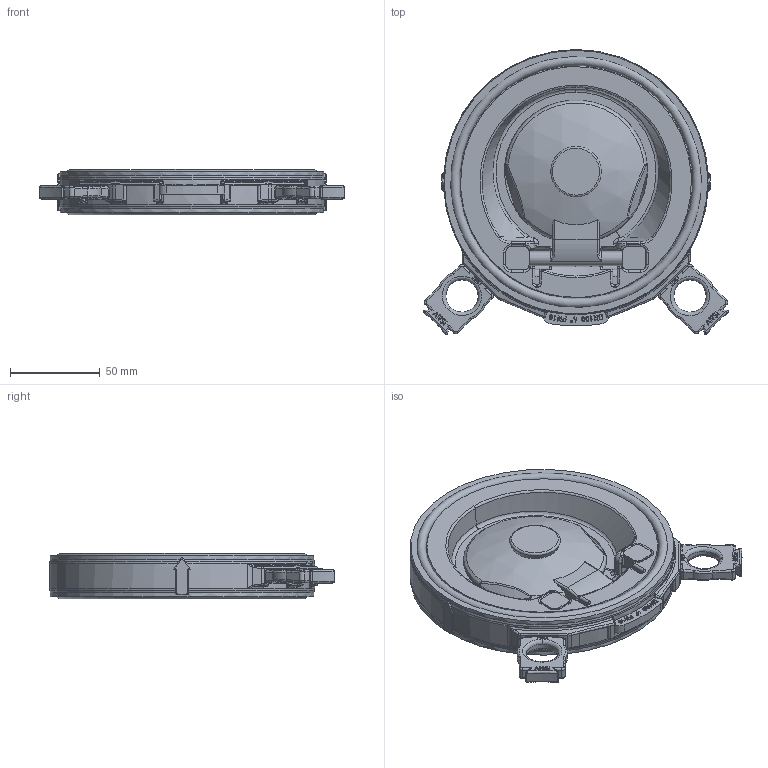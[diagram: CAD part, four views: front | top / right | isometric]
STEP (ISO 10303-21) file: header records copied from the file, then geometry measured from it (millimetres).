
FILE_DESCRIPTION(/* description */ ('STEP AP214','CAx-IF Rec.Pracs.---Representation and Presentation of Product Manufacturing Information (PMI)---3.8---2014-02-18'),/* implementation_level */ '2;1');
FILE_NAME(/* name */ 'C:\Users\POLYPIPE\Desktop\DATASET INVENTOR\LIBRERIA EFFAST\3D_VALVOLE\3D_VALVOLE A CLAPET\CDRCKD1100 (01).stp',/* time_stamp */ '2018-04-20T08:53:57+02:00',/* author */ ('POLYPIPE'),/* organization */ (' '),/* preprocessor_version */ 'ST-DEVELOPER v16.1',/* originating_system */ 'Autodesk Inventor 2016',/* authorisation */ ' ');
FILE_SCHEMA (('AP242_MANAGED_MODEL_BASED_3D_ENGINEERING_MIM_LF { 1 0 10303 442 1 1 4 }'));
Length unit declared in the file: millimetre
Products named in the file (7): CDRCCK1100 - 4 sedi; CDROTK1100; CDRCCK1100 - asole; CDRCCK1100 - tappi; OR0208; OR0173; CDRCKD1100 old - Copia
Assembly tree (8 placements, depth 2):
  CDRCKD1100 old - Copia
    CDRCCK1100 - 4 sedi
    CDROTK1100
    CDRCCK1100 - asole  x2
    CDRCCK1100 - tappi
    OR0208  x2
    OR0173
Bounding box: 170.24 x 159.12 x 25.59 mm (x, y, z)
Volume: 276098.2 mm3; surface area: 97285.3 mm2
Topology: 9 solids, 9 shells, 1239 faces, 3311 edges, 2073 vertices
Faces by surface type: bspline 528, plane 343, cylinder 242, torus 78, cone 24, sphere 24
Full cylindrical faces by diameter (mm): 8 x1, 18 x2, 74 x1, 129 x2, 140 x2, 147.095 x2
Entity records: 102299 total; most frequent: CARTESIAN_POINT 78159, ORIENTED_EDGE 5520, DIRECTION 4107, EDGE_CURVE 2760, VERTEX_POINT 1767, AXIS2_PLACEMENT_3D 1541, EDGE_LOOP 1135, FACE_OUTER_BOUND 1067
